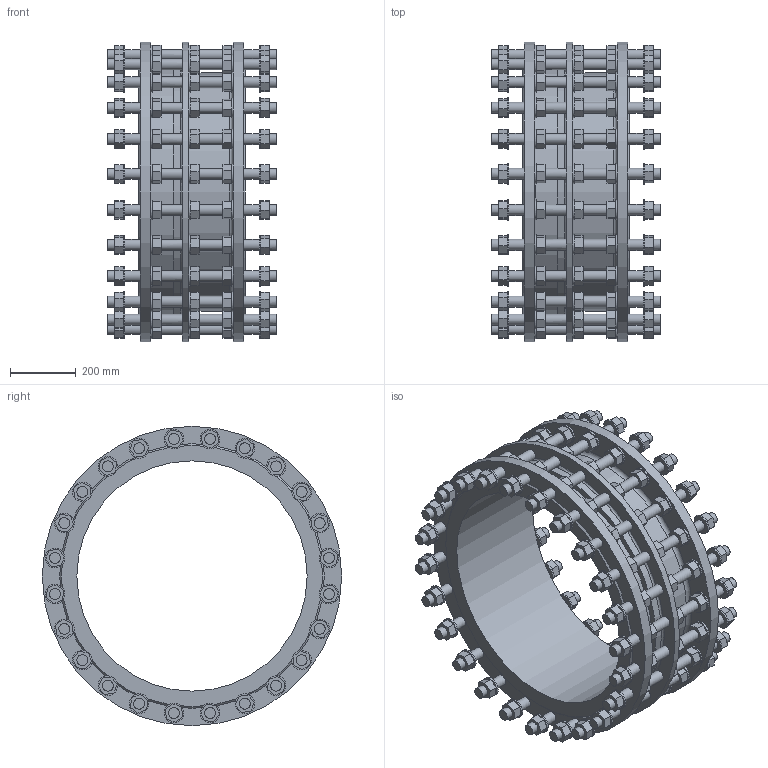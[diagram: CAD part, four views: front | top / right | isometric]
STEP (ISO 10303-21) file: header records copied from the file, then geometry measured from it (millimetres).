
FILE_DESCRIPTION (( 'STEP AP203' ), '1' );
FILE_NAME ('O_265_910_DN700_1XXXXX00_L=325_REV01.step', '2024-10-11T10:46:51', ( '' ), ( '' ), 'SwSTEP 2.0', 'SolidWorks 2022', '' );
FILE_SCHEMA (( 'CONFIG_CONTROL_DESIGN' ));
Length unit declared in the file: millimetre
Products named in the file (1): O_265_910_DN700_1XXXXX00_L=325_REV01
Bounding box: 515 x 910 x 910 mm (x, y, z)
Volume: 49810559.1 mm3; surface area: 4321505 mm2
Topology: 1 solids, 1 shells, 1381 faces, 3334 edges, 2278 vertices
Faces by surface type: plane 1104, cylinder 272, cone 3, torus 2
Full cylindrical faces by diameter (mm): 33 x144, 60 x120, 700 x1, 724 x1, 764 x1, 910 x3
Entity records: 38036 total; most frequent: CARTESIAN_POINT 7085, DIRECTION 6181, ORIENTED_EDGE 5732, EDGE_CURVE 2866, LINE 2267, VECTOR 2267, VERTEX_POINT 2085, EDGE_LOOP 2077
